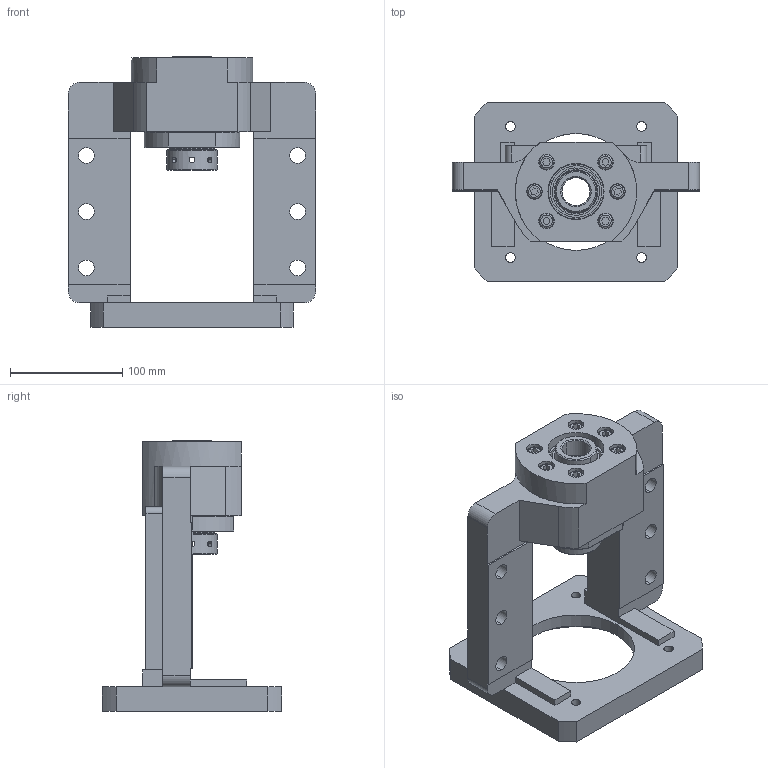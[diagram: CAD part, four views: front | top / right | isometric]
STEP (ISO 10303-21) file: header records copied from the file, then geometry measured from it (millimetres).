
FILE_DESCRIPTION (( 'STEP AP203' ), '1' );
FILE_NAME ('MBCK25L-I²Õ¦X¥ó.STEP', '2025-09-18T03:07:37', ( '' ), ( '' ), 'SwSTEP 2.0', 'SolidWorks 2018', '' );
FILE_SCHEMA (( 'CONFIG_CONTROL_DESIGN' ));
Length unit declared in the file: millimetre
Products named in the file (2): MBCK25L-I組合件
Bounding box: 220 x 160 x 241 mm (x, y, z)
Surface area: 218747.1 mm2 (no closed solid volume)
Topology: 0 solids, 33 shells, 335 faces, 936 edges, 627 vertices
Faces by surface type: plane 124, cylinder 122, cone 60, torus 26, bspline 3
Entity records: 16541 total; most frequent: CARTESIAN_POINT 7766, DIRECTION 1870, ORIENTED_EDGE 1618, EDGE_CURVE 928, AXIS2_PLACEMENT_3D 733, VERTEX_POINT 627, EDGE_LOOP 411, LINE 404
